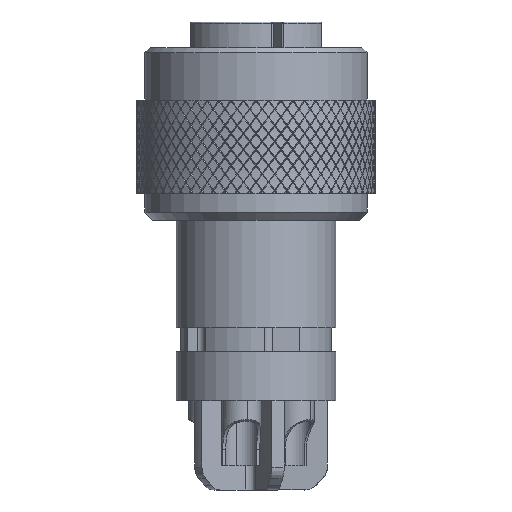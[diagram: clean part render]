
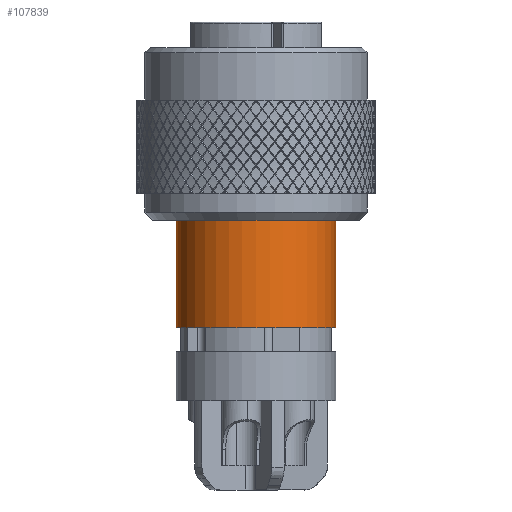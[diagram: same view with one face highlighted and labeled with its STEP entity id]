
A CAD part, left-side view. The second image highlights one B-rep face of the part: STEP entity #107839.
In plain terms, the highlighted cylindrical face has radius 4.9 mm (diameter 9.8 mm), a partial arc.
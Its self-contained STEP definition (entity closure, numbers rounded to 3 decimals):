
#5637 = DIRECTION ( 'NONE',  ( 0., 0., 1. ) ) ;
#8123 = CYLINDRICAL_SURFACE ( 'NONE', #30879, 4.9 ) ;
#12423 = AXIS2_PLACEMENT_3D ( 'NONE', #67849, #89079, #84030 ) ;
#14623 = ORIENTED_EDGE ( 'NONE', *, *, #62125, .T. ) ;
#14622 = LINE ( 'NONE', #95645, #195974 ) ;
#15750 = DIRECTION ( 'NONE',  ( 0., 0., -1. ) ) ;
#21071 = DIRECTION ( 'NONE',  ( -1., 0., 0. ) ) ;
#30879 = AXIS2_PLACEMENT_3D ( 'NONE', #153984, #185312, #90206 ) ;
#30946 = EDGE_CURVE ( 'NONE', #87989, #86297, #57446, .T. ) ;
#39521 = EDGE_CURVE ( 'NONE', #77199, #87989, #124402, .T. ) ;
#45281 = CARTESIAN_POINT ( 'NONE',  ( 0., 4.9, -11.6 ) ) ;
#57446 = CIRCLE ( 'NONE', #209151, 4.9 ) ;
#61378 = ORIENTED_EDGE ( 'NONE', *, *, #30946, .T. ) ;
#62125 = EDGE_CURVE ( 'NONE', #86297, #126314, #14622, .T. ) ;
#63256 = DIRECTION ( 'NONE',  ( 0., 0., -1. ) ) ;
#67849 = CARTESIAN_POINT ( 'NONE',  ( 0., 0., -18.8 ) ) ;
#69124 = CARTESIAN_POINT ( 'NONE',  ( 0., -4.9, -18.8 ) ) ;
#72962 = FACE_OUTER_BOUND ( 'NONE', #132145, .T. ) ;
#77199 = VERTEX_POINT ( 'NONE', #69124 ) ;
#82344 = VECTOR ( 'NONE', #5637, 1000. ) ;
#84030 = DIRECTION ( 'NONE',  ( -1., 0., 0. ) ) ;
#86297 = VERTEX_POINT ( 'NONE', #45281 ) ;
#87989 = VERTEX_POINT ( 'NONE', #88357 ) ;
#88357 = CARTESIAN_POINT ( 'NONE',  ( 0., -4.9, -11.6 ) ) ;
#89079 = DIRECTION ( 'NONE',  ( 0., 0., 1. ) ) ;
#90206 = DIRECTION ( 'NONE',  ( -1., 0., 0. ) ) ;
#95645 = CARTESIAN_POINT ( 'NONE',  ( 0., 4.9, -11.456 ) ) ;
#107839 = ADVANCED_FACE ( 'NONE', ( #72962 ), #8123, .T. ) ;
#121902 = CARTESIAN_POINT ( 'NONE',  ( 0., 4.9, -18.8 ) ) ;
#124402 = LINE ( 'NONE', #173035, #82344 ) ;
#126314 = VERTEX_POINT ( 'NONE', #121902 ) ;
#127335 = EDGE_CURVE ( 'NONE', #126314, #77199, #160771, .T. ) ;
#132145 = EDGE_LOOP ( 'NONE', ( #61378, #14623, #142617, #139189 ) ) ;
#139189 = ORIENTED_EDGE ( 'NONE', *, *, #39521, .T. ) ;
#142617 = ORIENTED_EDGE ( 'NONE', *, *, #127335, .T. ) ;
#153984 = CARTESIAN_POINT ( 'NONE',  ( 0., 0., -11.456 ) ) ;
#160771 = CIRCLE ( 'NONE', #12423, 4.9 ) ;
#173035 = CARTESIAN_POINT ( 'NONE',  ( 0., -4.9, -11.456 ) ) ;
#185312 = DIRECTION ( 'NONE',  ( 0., 0., -1. ) ) ;
#195974 = VECTOR ( 'NONE', #63256, 1000. ) ;
#199295 = CARTESIAN_POINT ( 'NONE',  ( 0., 0., -11.6 ) ) ;
#209151 = AXIS2_PLACEMENT_3D ( 'NONE', #199295, #15750, #21071 ) ;
